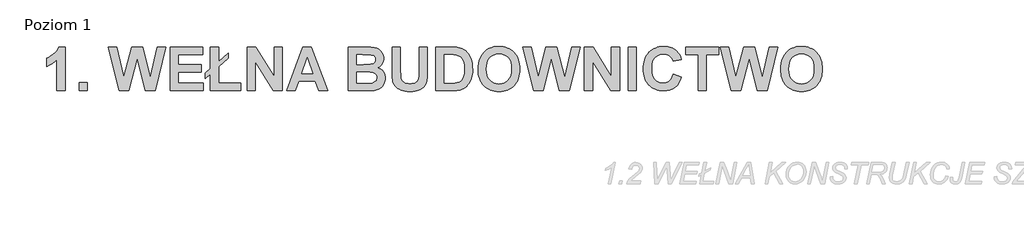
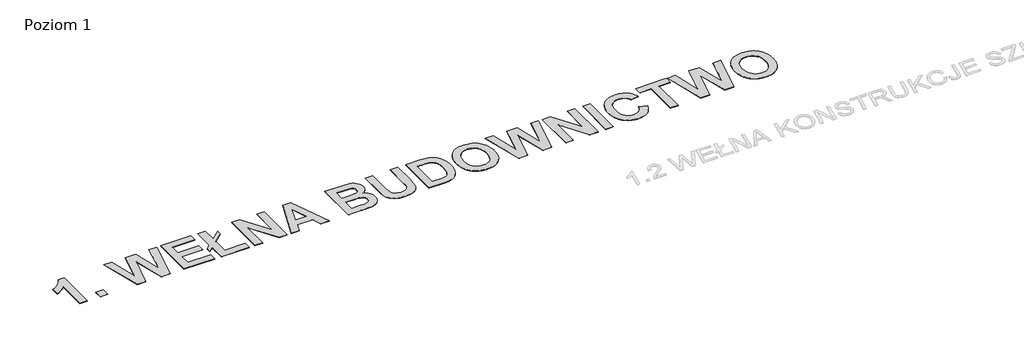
# One storey, part 2 of 2: 1 proxy.
"""IFC4 building model written with IfcOpenShell, lengths in millimetres."""

import ifcopenshell
import ifcopenshell.guid

model = None  # the IFC model being written
_history = None  # IfcOwnerHistory: only IFC2X3 demands one
_inside = {}  # id of a spatial element -> (the spatial element, [elements in it])
_under = {}  # id of a project, library or spatial element -> (it, [spatial elements below it])
_declared = {}  # id of a project -> (the project, [libraries it declares])
_typed = {}  # id of a type object -> (the type object, [elements of that type])
_made_of = {}  # id of a material, layer set ... -> (it, [elements and type objects made of it])


def new_model(schema):
    """Start an empty IFC model of exactly this schema.

    Asked for "IFC4X3", IfcOpenShell would pick the latest addendum, in which some entities
    have other attributes; the version numbers below select the first issue.
    IFC2X3 requires an IfcOwnerHistory on every rooted entity: one is made here for all.
    """
    global model, _history
    if schema == "IFC4X3":
        model = ifcopenshell.file(schema_version=(4, 3, 0, 0))
    else:
        model = ifcopenshell.file(schema=schema)
    _inside.clear()
    _under.clear()
    _declared.clear()
    _typed.clear()
    _made_of.clear()
    _history = None
    if model.schema == "IFC2X3":
        org = make("IfcOrganization", Name="unknown")
        user = make(
            "IfcPersonAndOrganization",
            ThePerson=make("IfcPerson", FamilyName="unknown"),
            TheOrganization=org,
        )
        app = make(
            "IfcApplication",
            ApplicationDeveloper=org,
            Version="unknown",
            ApplicationFullName="unknown",
            ApplicationIdentifier="unknown",
        )
        _history = make(
            "IfcOwnerHistory",
            OwningUser=user,
            OwningApplication=app,
            ChangeAction="ADDED",
            CreationDate=0,
        )
    return model


def make(cls, **values):
    """One entity of the class cls with the attributes given. An attribute that is None is left unset."""
    return model.create_entity(
        cls, **{name: value for name, value in values.items() if value is not None}
    )


def rooted(cls, **values):
    """An entity with a GlobalId (a new one), such as an element, a storey or a relation."""
    return make(cls, GlobalId=ifcopenshell.guid.new(), OwnerHistory=_history, **values)


def si_unit(unit_type, name, prefix=None):
    """IfcSIUnit, for example si_unit("LENGTHUNIT", "METRE", prefix="MILLI")."""
    return make("IfcSIUnit", UnitType=unit_type, Prefix=prefix, Name=name)


def assignment(units):
    """IfcUnitAssignment: the units of a project."""
    return None if units is None else make("IfcUnitAssignment", Units=units)


def point(xyz):
    """IfcCartesianPoint."""
    return None if xyz is None else make("IfcCartesianPoint", Coordinates=xyz)


def direction(xyz):
    """IfcDirection."""
    return None if xyz is None else make("IfcDirection", DirectionRatios=xyz)


def frame(location, z_axis=None, x_axis=None):
    """IfcAxis2Placement3D, a coordinate frame: its origin and axes. An axis left out is left unset."""
    return make(
        "IfcAxis2Placement3D",
        Location=point(location),
        Axis=direction(z_axis),
        RefDirection=direction(x_axis),
    )


def origin():
    """The frame at (0, 0, 0) with its axes left unset."""
    return frame((0.0, 0.0, 0.0))


def origin_with_axes():
    """The frame at (0, 0, 0) with the z axis (0, 0, 1) and the x axis (1, 0, 0) written out."""
    return frame((0.0, 0.0, 0.0), z_axis=(0.0, 0.0, 1.0), x_axis=(1.0, 0.0, 0.0))


def place(relative_to, where):
    """IfcLocalPlacement: puts the frame where relative to a parent placement (None: the world)."""
    return make(
        "IfcLocalPlacement", PlacementRelTo=relative_to, RelativePlacement=where
    )


def context(
    kind, dimensions, precision=None, world=None, true_north=None, identifier=None
):
    """IfcGeometricRepresentationContext, for example the 3D "Model" context."""
    return make(
        "IfcGeometricRepresentationContext",
        ContextIdentifier=identifier,
        ContextType=kind,
        CoordinateSpaceDimension=dimensions,
        Precision=precision,
        WorldCoordinateSystem=world,
        TrueNorth=true_north,
    )


def project(units=None, contexts=None):
    """IfcProject with its units and contexts."""
    return rooted(
        "IfcProject",
        Name="project",
        RepresentationContexts=contexts,
        UnitsInContext=assignment(units),
    )


def spatial(cls, under=None, at=None, **own):
    """A site, building, storey or space (cls), placed at a placement, below another one or the project."""
    s = rooted(cls, ObjectPlacement=at, **own)
    if under is not None:
        _under.setdefault(under.id(), (under, []))[1].append(s)
    return s


def polyline(points):
    """IfcPolyline through the points."""
    return make("IfcPolyline", Points=[point(p) for p in points])


def outline(outer, holes=None, kind="AREA"):
    """IfcArbitraryClosedProfileDef: a profile drawn as a closed curve; with holes, ...WithVoids."""
    if holes is None:
        return make("IfcArbitraryClosedProfileDef", ProfileType=kind, OuterCurve=outer)
    return make(
        "IfcArbitraryProfileDefWithVoids",
        ProfileType=kind,
        OuterCurve=outer,
        InnerCurves=holes,
    )


def extrude(swept, where, along, depth):
    """IfcExtrudedAreaSolid: the profile swept, set in the frame where, extruded along a direction by depth."""
    return make(
        "IfcExtrudedAreaSolid",
        SweptArea=swept,
        Position=where,
        ExtrudedDirection=direction(along),
        Depth=depth,
    )


def shape(context_of_items, identifier, shape_type, items):
    """IfcShapeRepresentation: the items that make up one representation, for example the "Body"."""
    return make(
        "IfcShapeRepresentation",
        ContextOfItems=context_of_items,
        RepresentationIdentifier=identifier,
        RepresentationType=shape_type,
        Items=items,
    )


def made_of(thing, what):
    """Note that an element or type object is made of a material, layer set ...; save() writes the relation."""
    if what is not None:
        _made_of.setdefault(what.id(), (what, []))[1].append(thing)
    return thing


def element(
    cls,
    number,
    at=None,
    inside=None,
    cuts=None,
    type_object=None,
    material=None,
    context=None,
    identifier="Body",
    shape_type=None,
    held_by="IfcProductDefinitionShape",
    body=None,
    shapes=None,
    **own,
):
    """One element of the class cls, such as IfcWall. Its Tag is "e" and its number.

    at: its placement. inside: the storey or other place that contains it. cuts: it is an
    opening in that element (IfcRelVoidsElement). A single representation is given by context,
    identifier, shape_type and body (its items); several are given by shapes. held_by: the class
    of the entity that holds the representations. save() writes the other relations.
    """
    e = rooted(cls, Tag="e%d" % number, ObjectPlacement=at, **own)
    if body is not None:
        shapes = [shape(context, identifier, shape_type, body)]
    if shapes is not None:
        e.Representation = make(held_by, Representations=shapes)
    if inside is not None:
        _inside.setdefault(inside.id(), (inside, []))[1].append(e)
    if cuts is not None:
        rooted(
            "IfcRelVoidsElement", RelatingBuildingElement=cuts, RelatedOpeningElement=e
        )
    if type_object is not None:
        _typed.setdefault(type_object.id(), (type_object, []))[1].append(e)
    return made_of(e, material)


def aggregate(whole, parts):
    """IfcRelAggregates: a whole, such as a stair, and the parts it consists of."""
    return rooted("IfcRelAggregates", RelatingObject=whole, RelatedObjects=parts)


def save(model, path):
    """Write the relations noted so far, then the file.

    IfcRelAggregates (storeys below a building ...), IfcRelContainedInSpatialStructure (elements
    in a storey), IfcRelDefinesByType, IfcRelAssociatesMaterial and IfcRelDeclares: one each for
    every whole, place, type object, material and project.
    """
    for whole, parts in _under.values():
        aggregate(whole, parts)
    for where, things in _inside.values():
        rooted(
            "IfcRelContainedInSpatialStructure",
            RelatedElements=things,
            RelatingStructure=where,
        )
    for kind, things in _typed.values():
        rooted("IfcRelDefinesByType", RelatedObjects=things, RelatingType=kind)
    for what, things in _made_of.values():
        rooted("IfcRelAssociatesMaterial", RelatedObjects=things, RelatingMaterial=what)
    for by, libraries in _declared.values():
        rooted("IfcRelDeclares", RelatingContext=by, RelatedDefinitions=libraries)
    model.write(path)


model = new_model("IFC4")

# Units and contexts
model_context = context("Model", 3, world=origin())
ifc_project = project(units=[si_unit("LENGTHUNIT", "METRE", prefix="MILLI")], contexts=[model_context])

# Site, building, storey
site = spatial("IfcSite", under=ifc_project)
building = spatial("IfcBuilding", under=site)
storey = spatial("IfcBuildingStorey", under=building, Name="Poziom 1", Elevation=0.0)

# Proxy
placement = place(None, origin())
element("IfcBuildingElementProxy", 1, Name="800", ObjectType="800", at=placement, inside=storey, context=model_context, shape_type="SweptSolid", body=[
    extrude(outline(polyline([(-15688.5553841, 16963.7896585), (-15841.5553841, 16963.7896585), (-15841.5553841, 17537.938096), (-15883.9142708, 17497.5215921), (-15929.9088997, 17462.7330179), (-15979.5392708, 17433.5723734), (-16032.8053841, 17410.0396585), (-16032.8053841, 17563.0396585), (-16002.7856087, 17575.1235208), (-15971.4958138, 17591.6524515), (-15905.1061654, 17638.0455179), (-15873.3432259, 17666.8388529), (-15846.984095, 17697.9356546), (-15826.0287728, 17731.3359232), (-15810.4772591, 17767.0396585), (-15688.5553841, 17767.0396585), (-15688.5553841, 16963.7896585)])), origin_with_axes(), (0.0, 0.0, 1.0), 5.0),
    extrude(outline(polyline([(-15433.5553841, 16963.7896585), (-15433.5553841, 17116.7896585), (-15280.5553841, 17116.7896585), (-15280.5553841, 16963.7896585), (-15433.5553841, 16963.7896585)])), origin_with_axes(), (0.0, 0.0, 1.0), 5.0),
    extrude(outline(polyline([(-14695.8483529, 16963.7896585), (-14898.0553841, 17767.0396585), (-14741.0710091, 17767.0396585), (-14611.1803841, 17215.203721), (-14471.5280404, 17767.0396585), (-14265.7350716, 17767.0396585), (-14126.6803841, 17206.0396585), (-13996.7897591, 17767.0396585), (-13839.8053841, 17767.0396585), (-14039.0241341, 16963.7896585), (-14220.1139779, 16963.7896585), (-14368.9303841, 17564.234971), (-14520.7350716, 16963.7896585), (-14695.8483529, 16963.7896585)])), origin_with_axes(), (0.0, 0.0, 1.0), 5.0),
    extrude(outline(polyline([(-13763.3053841, 16963.7896585), (-13763.3053841, 17767.0396585), (-13164.0553841, 17767.0396585), (-13164.0553841, 17626.7896585), (-13610.3053841, 17626.7896585), (-13610.3053841, 17448.2896585), (-13189.5553841, 17448.2896585), (-13189.5553841, 17308.0396585), (-13610.3053841, 17308.0396585), (-13610.3053841, 17104.0396585), (-13151.3053841, 17104.0396585), (-13151.3053841, 16963.7896585), (-13763.3053841, 16963.7896585)])), origin_with_axes(), (0.0, 0.0, 1.0), 5.0),
    extrude(outline(polyline([(-13023.8053841, 17367.406846), (-13023.8053841, 17767.0396585), (-12870.8053841, 17767.0396585), (-12870.8053841, 17501.8795023), (-12692.3053841, 17658.6646585), (-12692.3053841, 17561.047471), (-12870.8053841, 17404.2623148), (-12870.8053841, 17104.0396585), (-12462.8053841, 17104.0396585), (-12462.8053841, 16963.7896585), (-13023.8053841, 16963.7896585), (-13023.8053841, 17269.7896585), (-13113.0553841, 17191.297471), (-13113.0553841, 17288.9146585), (-13023.8053841, 17367.406846)])), origin_with_axes(), (0.0, 0.0, 1.0), 5.0),
    extrude(outline(polyline([(-12348.0553841, 16963.7896585), (-12348.0553841, 17767.0396585), (-12187.6842904, 17767.0396585), (-11850.8053841, 17226.359971), (-11850.8053841, 17767.0396585), (-11697.8053841, 17767.0396585), (-11697.8053841, 16963.7896585), (-11863.1569466, 16963.7896585), (-12195.0553841, 17496.500596), (-12195.0553841, 16963.7896585), (-12348.0553841, 16963.7896585)])), origin_with_axes(), (0.0, 0.0, 1.0), 5.0),
    extrude(outline(polyline([(-10869.0553841, 16963.7896585), (-11029.8249154, 16963.7896585), (-11092.7780404, 17142.2896585), (-11396.1881966, 17142.2896585), (-11458.3444466, 16963.7896585), (-11621.3053841, 16963.7896585), (-11328.0553841, 17767.0396585), (-11165.0944466, 17767.0396585), (-10869.0553841, 16963.7896585)]), holes=[polyline([(-11141.7858529, 17282.5396585), (-11245.1803841, 17575.7896585), (-11347.1803841, 17282.5396585), (-11141.7858529, 17282.5396585)])]), origin_with_axes(), (0.0, 0.0, 1.0), 5.0),
    extrude(outline(polyline([(-10486.5553841, 17767.0396585), (-10156.8483529, 17767.0396585), (-10071.4582161, 17765.047471), (-10010.9206185, 17759.0709085), (-9965.3493294, 17746.7442484), (-9924.8581185, 17725.7017679), (-9890.0695443, 17696.1177835), (-9861.6061654, 17658.1666117), (-9850.5370736, 17636.4579935), (-9842.6305794, 17613.4669046), (-9837.8866829, 17589.1933451), (-9836.3053841, 17563.6373148), (-9838.1917366, 17535.9210062), (-9843.8507943, 17509.3502054), (-9853.282557, 17483.9249124), (-9866.4870247, 17459.6451273), (-9882.9287972, 17437.4197855), (-9902.072474, 17418.1578226), (-9923.918055, 17401.8592386), (-9948.4655404, 17388.5240335), (-9917.213099, 17375.9981546), (-9889.7956185, 17359.7369242), (-9866.213099, 17339.7403421), (-9846.4655404, 17316.0084085), (-9830.864222, 17289.2757425), (-9819.7204232, 17260.2769632), (-9813.0341439, 17229.0120707), (-9810.8053841, 17195.4810648), (-9812.4053597, 17168.3810892), (-9817.2052865, 17141.6670999), (-9836.4049935, 17089.3970804), (-9850.3752083, 17064.9429789), (-9866.6862435, 17043.078721), (-9885.338099, 17023.804307), (-9906.3307747, 17007.1197367), (-9929.782557, 16993.2055521), (-9955.8117318, 16982.2422953), (-9984.4182991, 16974.2299662), (-10015.6022591, 16969.1685648), (-10085.0299935, 16965.632432), (-10212.0319466, 16963.7896585), (-10486.5553841, 16963.7896585), (-10486.5553841, 17767.0396585)]), holes=[polyline([(-10333.5553841, 17626.7896585), (-10333.5553841, 17448.2896585), (-10216.8131966, 17448.2896585), (-10087.3210091, 17450.8795023), (-10046.5558724, 17460.1929789), (-10029.8152718, 17468.2488871), (-10015.5026497, 17478.5709085), (-10004.041346, 17490.9349222), (-9995.8547005, 17505.116807), (-9990.9427132, 17521.1165628), (-9989.3053841, 17538.9341898), (-9994.9582161, 17571.2823343), (-10002.0242562, 17584.9723978), (-10011.9167122, 17597.0064554), (-10024.5857796, 17607.1105814), (-10039.9816536, 17615.0108499), (-10078.9538216, 17624.1998148), (-10231.1569466, 17626.7896585), (-10333.5553841, 17626.7896585)]), polyline([(-10333.5553841, 17308.0396585), (-10333.5553841, 17104.0396585), (-10171.7897591, 17104.0396585), (-10094.4928841, 17105.234971), (-10051.8600716, 17108.8209085), (-10016.4489388, 17119.504014), (-9988.3092904, 17139.2017679), (-9977.5888314, 17152.3315287), (-9969.9313607, 17167.5157328), (-9965.3368782, 17184.7543802), (-9963.8053841, 17204.047471), (-9968.5368294, 17235.7232523), (-9982.7311654, 17262.219346), (-10005.8405404, 17282.8882914), (-10037.3171029, 17297.0826273), (-10093.8952279, 17305.3004007), (-10192.3092904, 17308.0396585), (-10333.5553841, 17308.0396585)])]), origin_with_axes(), (0.0, 0.0, 1.0), 5.0),
    extrude(outline(polyline([(-9683.3053841, 17767.0396585), (-9530.3053841, 17767.0396585), (-9530.3053841, 17333.7388773), (-9528.6618294, 17248.672471), (-9523.7311654, 17199.8638773), (-9516.098597, 17176.5615091), (-9504.5563607, 17155.6622171), (-9489.1044564, 17137.1660013), (-9469.7428841, 17121.0728617), (-9446.4716439, 17108.0427103), (-9419.2907357, 17098.7354593), (-9388.2001595, 17093.1511087), (-9353.1999154, 17091.2896585), (-9317.8697152, 17093.0452738), (-9287.1838021, 17098.3121195), (-9261.1421761, 17107.0901957), (-9239.7448372, 17119.3795023), (-9222.5684456, 17134.2275248), (-9209.1896615, 17150.6817484), (-9199.6084847, 17168.7421732), (-9193.8249154, 17188.4087992), (-9187.9977669, 17242.8702249), (-9186.0553841, 17324.375596), (-9186.0553841, 17767.0396585), (-9033.0553841, 17767.0396585), (-9033.0553841, 17345.6920023), (-9036.3922982, 17222.3257914), (-9046.4030404, 17141.4927835), (-9054.4838509, 17112.8613138), (-9065.3786263, 17086.5333109), (-9079.0873665, 17062.5087748), (-9095.6100716, 17040.7877054), (-9115.0525765, 17021.2704935), (-9137.5207161, 17003.8575296), (-9163.0144906, 16988.5488138), (-9191.5338997, 16975.344346), (-9223.8633675, 16964.7110453), (-9260.7873177, 16957.1158304), (-9302.3057503, 16952.5587015), (-9348.4186654, 16951.0396585), (-9403.2660775, 16952.6956644), (-9451.0661263, 16957.663682), (-9491.8188118, 16965.9437113), (-9525.5241341, 16977.5357523), (-9554.1244759, 16991.7798929), (-9579.56222, 17008.016221), (-9601.8373665, 17026.2447367), (-9620.9499154, 17046.4654398), (-9650.0358529, 17089.944932), (-9667.1686654, 17135.516221), (-9679.2712044, 17220.8814554), (-9683.3053841, 17339.1177835), (-9683.3053841, 17767.0396585)])), origin_with_axes(), (0.0, 0.0, 1.0), 5.0),
    extrude(outline(polyline([(-8880.0553841, 17767.0396585), (-8582.6217904, 17767.0396585), (-8493.9694466, 17763.2046976), (-8429.2233529, 17751.6998148), (-8395.0324349, 17739.2299662), (-8363.381556, 17722.738389), (-8334.2707161, 17702.2250833), (-8307.6999154, 17677.6900492), (-8283.9119515, 17649.6500101), (-8263.1496224, 17618.6216898), (-8245.4129281, 17584.6050882), (-8230.7018685, 17547.6002054), (-8219.1534066, 17506.8537455), (-8210.9045052, 17461.6124124), (-8205.9551644, 17411.8762064), (-8204.3053841, 17357.6451273), (-8205.8493294, 17309.8326273), (-8210.4811654, 17265.406846), (-8218.2008919, 17224.3677835), (-8229.0085091, 17186.7154398), (-8245.7677865, 17144.9791117), (-8265.7643685, 17107.4263773), (-8288.9982552, 17074.0572367), (-8315.4694466, 17044.8716898), (-8338.4543099, 17025.472764), (-8365.1745247, 17008.3150492), (-8395.6300911, 16993.3985453), (-8429.8210091, 16980.7232523), (-8492.7243294, 16968.023057), (-8573.8561654, 16963.7896585), (-8880.0553841, 16963.7896585), (-8880.0553841, 17767.0396585)]), holes=[polyline([(-8727.0553841, 17626.7896585), (-8727.0553841, 17104.0396585), (-8596.7663216, 17104.0396585), (-8533.8131966, 17105.9322367), (-8491.1803841, 17111.609971), (-8452.3576302, 17124.5840921), (-8420.756556, 17144.3814554), (-8407.4026741, 17157.8473978), (-8395.331263, 17175.0362406), (-8375.0358529, 17220.5826273), (-8361.7380013, 17283.2369242), (-8357.3053841, 17365.2154398), (-8361.7380013, 17446.0484476), (-8367.2787728, 17478.5086527), (-8375.0358529, 17505.6646585), (-8396.2775521, 17549.2935648), (-8424.5417122, 17582.1646585), (-8460.6252083, 17605.1744242), (-8505.3249154, 17619.219346), (-8559.4626107, 17624.8970804), (-8648.5631966, 17626.7896585), (-8727.0553841, 17626.7896585)])]), origin_with_axes(), (0.0, 0.0, 1.0), 5.0),
    extrude(outline(polyline([(-8102.3053841, 17360.4341898), (-8100.051722, 17419.2286234), (-8093.2907357, 17473.0923929), (-8082.0224251, 17522.0254984), (-8066.2467904, 17566.0279398), (-8034.4464974, 17624.0753031), (-7992.834681, 17675.8970804), (-7944.1007943, 17718.3057718), (-7918.0716195, 17734.7848978), (-7890.9342904, 17748.1138773), (-7852.659388, 17761.9720316), (-7811.5456185, 17771.8707132), (-7767.5929818, 17777.8099222), (-7720.8014779, 17779.7896585), (-7678.3118538, 17778.0729532), (-7638.0011849, 17772.9228373), (-7599.869471, 17764.3393106), (-7563.9167122, 17752.3223734), (-7530.1429085, 17736.8720255), (-7498.5480599, 17717.9882669), (-7469.1321663, 17695.6710978), (-7441.8952279, 17669.9205179), (-7417.3819832, 17641.1131754), (-7396.1371712, 17609.6257181), (-7378.1607918, 17575.4581461), (-7363.452845, 17538.6104593), (-7352.0133309, 17499.0826578), (-7343.8422493, 17456.8747416), (-7338.9396004, 17411.9867105), (-7337.3053841, 17364.4185648), (-7338.9271492, 17317.1819315), (-7343.7924447, 17272.5911722), (-7351.9012703, 17230.646287), (-7363.2536263, 17191.3472757), (-7377.8495125, 17154.6941385), (-7395.688929, 17120.6868753), (-7416.7718758, 17089.3254862), (-7441.0983529, 17060.609971), (-7468.1422982, 17034.9294291), (-7497.3776497, 17012.6729593), (-7528.8044075, 16993.8405619), (-7562.4225716, 16978.4322367), (-7598.2321419, 16966.4479837), (-7636.2331185, 16957.8878031), (-7676.4255013, 16952.7516947), (-7718.8092904, 16951.0396585), (-7761.6599984, 16952.7439127), (-7802.2570443, 16957.8566751), (-7840.6004281, 16966.3779459), (-7876.6901497, 16978.3077249), (-7910.5262093, 16993.6460123), (-7942.1086068, 17012.392808), (-7971.4373421, 17034.5481119), (-7998.5124154, 17060.1119242), (-8022.8388924, 17088.6640177), (-8043.9218392, 17119.7841654), (-8061.7612557, 17153.4723673), (-8076.3571419, 17189.7286234), (-8087.7094979, 17228.5529337), (-8095.8183236, 17269.9452982), (-8100.683619, 17313.9057169), (-8102.3053841, 17360.4341898)]), holes=[polyline([(-7949.3053841, 17366.0123148), (-7945.2400765, 17302.4739847), (-7933.0441536, 17247.1285257), (-7912.7176156, 17199.9759378), (-7884.2604622, 17161.016221), (-7849.5403695, 17130.5108499), (-7810.425013, 17108.7212992), (-7766.9143929, 17095.6475687), (-7719.0085091, 17091.2896585), (-7671.15243, 17095.6164408), (-7627.791224, 17108.5967874), (-7588.9248909, 17130.2306986), (-7554.553431, 17160.5181742), (-7526.4449105, 17199.4592142), (-7506.3673958, 17247.0538187), (-7494.320887, 17303.3019876), (-7490.3053841, 17368.203721), (-7494.2150521, 17432.2027445), (-7505.944056, 17487.5357523), (-7525.4923958, 17534.2027445), (-7552.8600716, 17572.203721), (-7586.7023568, 17601.6631937), (-7625.6745247, 17622.7056742), (-7669.7765755, 17635.3311624), (-7719.0085091, 17639.5396585), (-7768.2902474, 17635.2813578), (-7812.5417122, 17622.5064554), (-7851.7629036, 17601.2149515), (-7885.9538216, 17571.406846), (-7913.6701302, 17533.0198832), (-7933.4674935, 17485.991807), (-7945.3459115, 17430.3226175), (-7949.3053841, 17366.0123148)])]), origin_with_axes(), (0.0, 0.0, 1.0), 5.0),
    extrude(outline(polyline([(-7084.0983529, 16963.7896585), (-7286.3053841, 17767.0396585), (-7129.3210091, 17767.0396585), (-6999.4303841, 17215.203721), (-6859.7780404, 17767.0396585), (-6653.9850716, 17767.0396585), (-6514.9303841, 17206.0396585), (-6385.0397591, 17767.0396585), (-6228.0553841, 17767.0396585), (-6427.2741341, 16963.7896585), (-6608.3639779, 16963.7896585), (-6757.1803841, 17564.234971), (-6908.9850716, 16963.7896585), (-7084.0983529, 16963.7896585)])), origin_with_axes(), (0.0, 0.0, 1.0), 5.0),
    extrude(outline(polyline([(-6151.5553841, 16963.7896585), (-6151.5553841, 17767.0396585), (-5991.1842904, 17767.0396585), (-5654.3053841, 17226.359971), (-5654.3053841, 17767.0396585), (-5501.3053841, 17767.0396585), (-5501.3053841, 16963.7896585), (-5666.6569466, 16963.7896585), (-5998.5553841, 17496.500596), (-5998.5553841, 16963.7896585), (-6151.5553841, 16963.7896585)])), origin_with_axes(), (0.0, 0.0, 1.0), 5.0),
    extrude(outline(polyline([(-5348.3053841, 16963.7896585), (-5348.3053841, 17767.0396585), (-5195.3053841, 17767.0396585), (-5195.3053841, 16963.7896585), (-5348.3053841, 16963.7896585)])), origin_with_axes(), (0.0, 0.0, 1.0), 5.0),
    extrude(outline(polyline([(-4519.5553841, 17269.7896585), (-4366.5553841, 17218.7896585), (-4387.6850228, 17158.29564), (-4414.8161263, 17106.1065531), (-4447.9486947, 17062.2223978), (-4487.0827279, 17026.6431742), (-4532.0563607, 16999.1447611), (-4582.7077279, 16979.5030374), (-4639.0368294, 16967.7180033), (-4701.0436654, 16963.7896585), (-4740.2430672, 16965.467454), (-4777.6557259, 16970.5008402), (-4813.2816414, 16978.8898172), (-4847.1208138, 16990.6343851), (-4879.173243, 17005.7345438), (-4909.438929, 17024.1902933), (-4937.9178719, 17046.0016336), (-4964.6100716, 17071.1685648), (-4988.796473, 17099.2459574), (-5009.7580208, 17129.788682), (-5027.4947152, 17162.7967386), (-5042.006556, 17198.2701273), (-5053.2935433, 17236.208848), (-5061.3556771, 17276.6129007), (-5066.1929574, 17319.4822855), (-5067.8053841, 17364.8170023), (-5066.1789498, 17412.6979837), (-5061.2996468, 17457.8272562), (-5053.1674752, 17500.2048197), (-5041.7824349, 17539.8306742), (-5027.144526, 17576.7048197), (-5009.2537484, 17610.8272562), (-4988.1101021, 17642.1979837), (-4963.7135872, 17670.8170023), (-4936.6649727, 17696.3574686), (-4907.5650277, 17718.4925394), (-4876.413752, 17737.2222147), (-4843.2111458, 17752.5464945), (-4807.9572091, 17764.4653788), (-4770.6519417, 17772.9788675), (-4731.2953438, 17778.0869608), (-4689.8874154, 17779.7896585), (-4619.2643685, 17774.17418), (-4555.6139779, 17757.3277445), (-4526.4035286, 17744.6929178), (-4498.9362435, 17729.2503519), (-4473.2121224, 17711.0000467), (-4449.2311654, 17689.9420023), (-4423.3700814, 17660.5447855), (-4400.9704232, 17625.3453226), (-4382.0321907, 17584.3436136), (-4366.5553841, 17537.5396585), (-4519.5553841, 17512.0396585), (-4529.1988167, 17540.0610208), (-4542.9884896, 17564.957139), (-4560.9244027, 17586.728013), (-4583.006556, 17605.3736429), (-4608.4629769, 17620.3212748), (-4636.5216927, 17630.9981546), (-4667.1827034, 17637.4042826), (-4700.4460091, 17639.5396585), (-4745.9114632, 17635.6611185), (-4786.8820443, 17624.0254984), (-4823.3577523, 17604.6327982), (-4855.3385872, 17577.4830179), (-4881.3553109, 17541.6547708), (-4899.9386849, 17496.2266703), (-4911.0887093, 17441.1987162), (-4914.8053841, 17376.5709085), (-4911.2007699, 17308.1641703), (-4900.3869271, 17250.3658304), (-4882.3638558, 17203.175889), (-4857.131556, 17166.594346), (-4826.1219124, 17139.2266703), (-4790.7668099, 17119.6783304), (-4751.0662484, 17107.9493265), (-4707.0202279, 17104.0396585), (-4674.2300667, 17106.5361185), (-4643.7931771, 17114.0254984), (-4615.7095589, 17126.5077982), (-4589.9792122, 17143.9830179), (-4567.1624398, 17166.8246927), (-4547.8195443, 17195.4063578), (-4531.9505257, 17229.728013), (-4519.5553841, 17269.7896585)])), origin_with_axes(), (0.0, 0.0, 1.0), 5.0),
    extrude(outline(polyline([(-4060.5553841, 16963.7896585), (-4060.5553841, 17626.7896585), (-4290.0553841, 17626.7896585), (-4290.0553841, 17767.0396585), (-3678.0553841, 17767.0396585), (-3678.0553841, 17626.7896585), (-3907.5553841, 17626.7896585), (-3907.5553841, 16963.7896585), (-4060.5553841, 16963.7896585)])), origin_with_axes(), (0.0, 0.0, 1.0), 5.0),
    extrude(outline(polyline([(-3450.3483529, 16963.7896585), (-3652.5553841, 17767.0396585), (-3495.5710091, 17767.0396585), (-3365.6803841, 17215.203721), (-3226.0280404, 17767.0396585), (-3020.2350716, 17767.0396585), (-2881.1803841, 17206.0396585), (-2751.2897591, 17767.0396585), (-2594.3053841, 17767.0396585), (-2793.5241341, 16963.7896585), (-2974.6139779, 16963.7896585), (-3123.4303841, 17564.234971), (-3275.2350716, 16963.7896585), (-3450.3483529, 16963.7896585)])), origin_with_axes(), (0.0, 0.0, 1.0), 5.0),
    extrude(outline(polyline([(-2543.3053841, 17360.4341898), (-2541.051722, 17419.2286234), (-2534.2907357, 17473.0923929), (-2523.0224251, 17522.0254984), (-2507.2467904, 17566.0279398), (-2475.4464974, 17624.0753031), (-2433.834681, 17675.8970804), (-2385.1007943, 17718.3057718), (-2359.0716195, 17734.7848978), (-2331.9342904, 17748.1138773), (-2293.659388, 17761.9720316), (-2252.5456185, 17771.8707132), (-2208.5929818, 17777.8099222), (-2161.8014779, 17779.7896585), (-2119.3118538, 17778.0729532), (-2079.0011849, 17772.9228373), (-2040.869471, 17764.3393106), (-2004.9167122, 17752.3223734), (-1971.1429085, 17736.8720255), (-1939.5480599, 17717.9882669), (-1910.1321663, 17695.6710978), (-1882.8952279, 17669.9205179), (-1858.3819832, 17641.1131754), (-1837.1371712, 17609.6257181), (-1819.1607918, 17575.4581461), (-1804.452845, 17538.6104593), (-1793.0133309, 17499.0826578), (-1784.8422493, 17456.8747416), (-1779.9396004, 17411.9867105), (-1778.3053841, 17364.4185648), (-1779.9271492, 17317.1819315), (-1784.7924447, 17272.5911722), (-1792.9012703, 17230.646287), (-1804.2536263, 17191.3472757), (-1818.8495125, 17154.6941385), (-1836.688929, 17120.6868753), (-1857.7718758, 17089.3254862), (-1882.0983529, 17060.609971), (-1909.1422982, 17034.9294291), (-1938.3776497, 17012.6729593), (-1969.8044075, 16993.8405619), (-2003.4225716, 16978.4322367), (-2039.2321419, 16966.4479837), (-2077.2331185, 16957.8878031), (-2117.4255013, 16952.7516947), (-2159.8092904, 16951.0396585), (-2202.6599984, 16952.7439127), (-2243.2570443, 16957.8566751), (-2281.6004281, 16966.3779459), (-2317.6901497, 16978.3077249), (-2351.5262093, 16993.6460123), (-2383.1086068, 17012.392808), (-2412.4373421, 17034.5481119), (-2439.5124154, 17060.1119242), (-2463.8388924, 17088.6640177), (-2484.9218392, 17119.7841654), (-2502.7612557, 17153.4723673), (-2517.3571419, 17189.7286234), (-2528.7094979, 17228.5529337), (-2536.8183236, 17269.9452982), (-2541.683619, 17313.9057169), (-2543.3053841, 17360.4341898)]), holes=[polyline([(-2390.3053841, 17366.0123148), (-2386.2400765, 17302.4739847), (-2374.0441536, 17247.1285257), (-2353.7176156, 17199.9759378), (-2325.2604622, 17161.016221), (-2290.5403695, 17130.5108499), (-2251.425013, 17108.7212992), (-2207.9143929, 17095.6475687), (-2160.0085091, 17091.2896585), (-2112.15243, 17095.6164408), (-2068.791224, 17108.5967874), (-2029.9248909, 17130.2306986), (-1995.553431, 17160.5181742), (-1967.4449105, 17199.4592142), (-1947.3673958, 17247.0538187), (-1935.320887, 17303.3019876), (-1931.3053841, 17368.203721), (-1935.2150521, 17432.2027445), (-1946.944056, 17487.5357523), (-1966.4923958, 17534.2027445), (-1993.8600716, 17572.203721), (-2027.7023568, 17601.6631937), (-2066.6745247, 17622.7056742), (-2110.7765755, 17635.3311624), (-2160.0085091, 17639.5396585), (-2209.2902474, 17635.2813578), (-2253.5417122, 17622.5064554), (-2292.7629036, 17601.2149515), (-2326.9538216, 17571.406846), (-2354.6701302, 17533.0198832), (-2374.4674935, 17485.991807), (-2386.3459115, 17430.3226175), (-2390.3053841, 17366.0123148)])]), origin_with_axes(), (0.0, 0.0, 1.0), 5.0),
])

save(model, "model.ifc")
